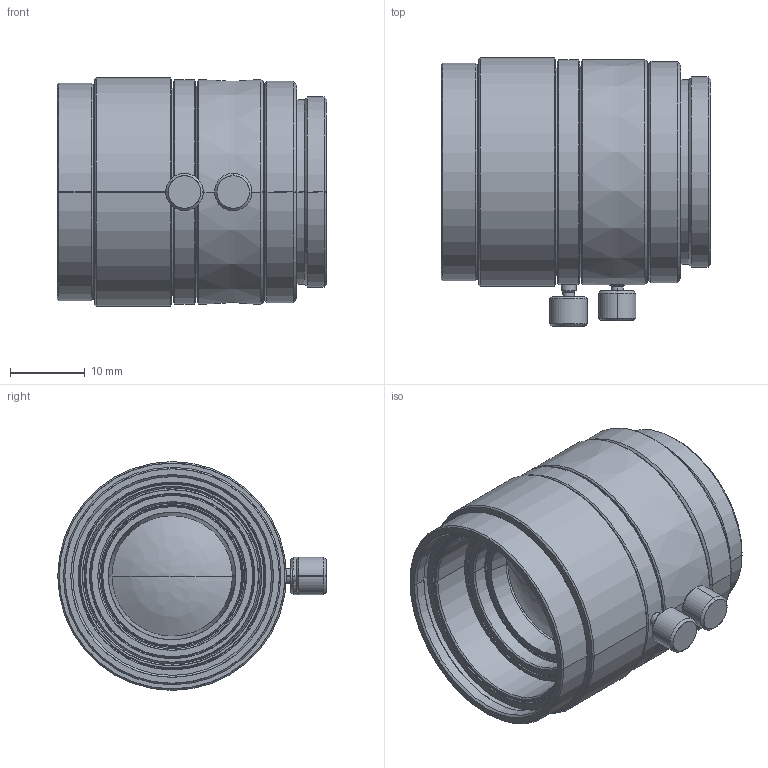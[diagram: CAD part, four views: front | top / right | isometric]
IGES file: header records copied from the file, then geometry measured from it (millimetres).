
Start section: SolidWorks IGES file using analytic representation for surfaces
Global section: file name: C:\Users\tsuji_vst\Documents\【図面】\_3D\00 VST\VS-LDA(APL)\VS-LDA30.IGS; native system: SolidWorks 2016; preprocessor: SolidWorks 2016; author: tsuji_vst; date: 161108.153416; units: millimetre
Bounding box: 36 x 35.8 x 30.5 mm (x, y, z)
Surface area: 7184.6 mm2 (no closed solid volume)
Topology: 0 solids, 0 shells, 162 faces, 2848 edges, 2846 vertices
Faces by surface type: revolution 136, bspline 26
